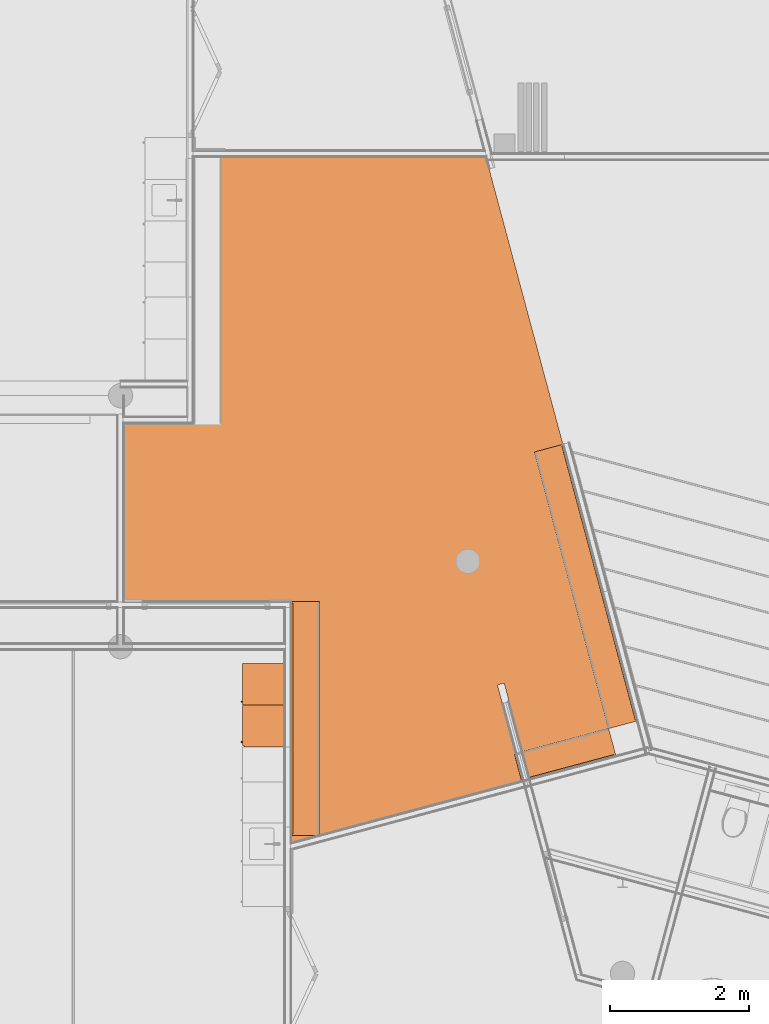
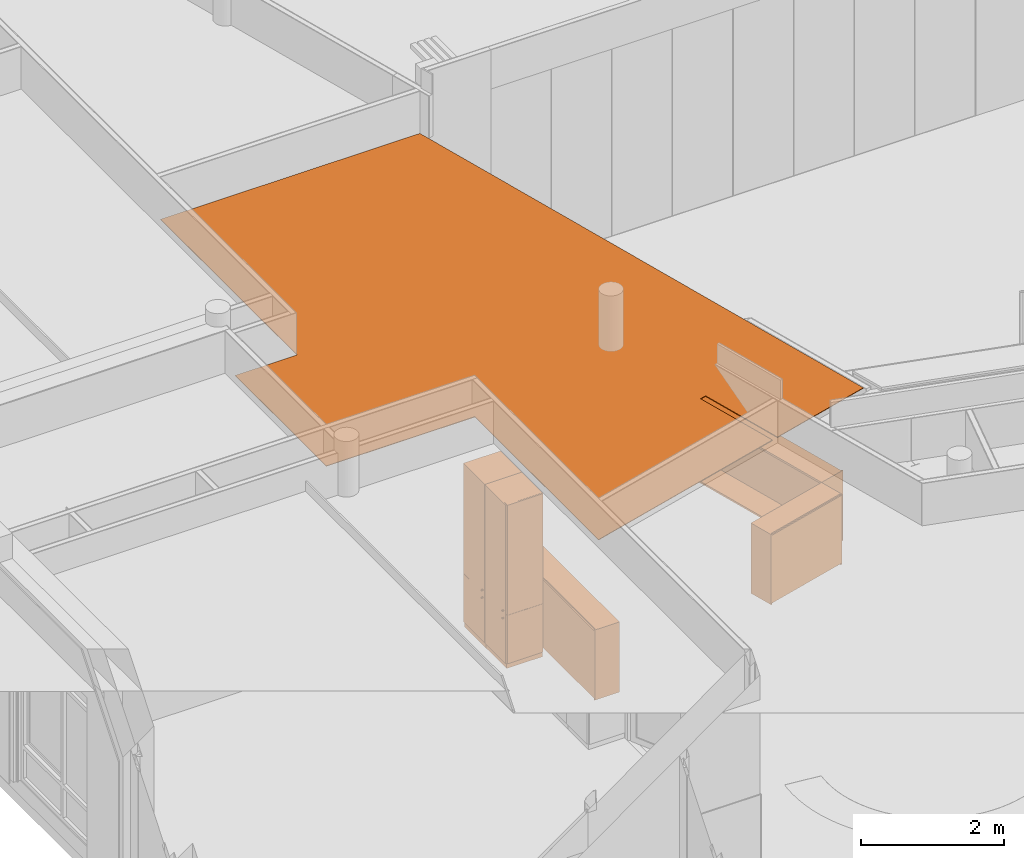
# One storey, part 125 of 167: 6 proxies.
"""IFC2X3 building model written with IfcOpenShell, lengths in millimetres."""

import ifcopenshell
import ifcopenshell.guid

model = None  # the IFC model being written
_history = None  # IfcOwnerHistory: only IFC2X3 demands one
_inside = {}  # id of a spatial element -> (the spatial element, [elements in it])
_under = {}  # id of a project, library or spatial element -> (it, [spatial elements below it])
_declared = {}  # id of a project -> (the project, [libraries it declares])
_typed = {}  # id of a type object -> (the type object, [elements of that type])
_made_of = {}  # id of a material, layer set ... -> (it, [elements and type objects made of it])


def new_model(schema):
    """Start an empty IFC model of exactly this schema.

    Asked for "IFC4X3", IfcOpenShell would pick the latest addendum, in which some entities
    have other attributes; the version numbers below select the first issue.
    IFC2X3 requires an IfcOwnerHistory on every rooted entity: one is made here for all.
    """
    global model, _history
    if schema == "IFC4X3":
        model = ifcopenshell.file(schema_version=(4, 3, 0, 0))
    else:
        model = ifcopenshell.file(schema=schema)
    _inside.clear()
    _under.clear()
    _declared.clear()
    _typed.clear()
    _made_of.clear()
    _history = None
    if model.schema == "IFC2X3":
        org = make("IfcOrganization", Name="unknown")
        user = make(
            "IfcPersonAndOrganization",
            ThePerson=make("IfcPerson", FamilyName="unknown"),
            TheOrganization=org,
        )
        app = make(
            "IfcApplication",
            ApplicationDeveloper=org,
            Version="unknown",
            ApplicationFullName="unknown",
            ApplicationIdentifier="unknown",
        )
        _history = make(
            "IfcOwnerHistory",
            OwningUser=user,
            OwningApplication=app,
            ChangeAction="ADDED",
            CreationDate=0,
        )
    return model


def make(cls, **values):
    """One entity of the class cls with the attributes given. An attribute that is None is left unset."""
    return model.create_entity(
        cls, **{name: value for name, value in values.items() if value is not None}
    )


def entity(cls, *values):
    """Any entity or typed value of the class cls, its attributes in the order of the schema. None: left unset."""
    e = model.create_entity(cls)
    for i, value in enumerate(values):
        if value is not None:
            e[i] = value
    return e


def rooted(cls, **values):
    """An entity with a GlobalId (a new one), such as an element, a storey or a relation."""
    return make(cls, GlobalId=ifcopenshell.guid.new(), OwnerHistory=_history, **values)


def si_unit(unit_type, name, prefix=None):
    """IfcSIUnit, for example si_unit("LENGTHUNIT", "METRE", prefix="MILLI")."""
    return make("IfcSIUnit", UnitType=unit_type, Prefix=prefix, Name=name)


def converted_unit(unit_type, name, factor, base, dimensions=None, offset=None):
    """IfcConversionBasedUnit, such as the inch: factor (a typed value) times the base unit."""
    return make(
        "IfcConversionBasedUnit"
        if offset is None
        else "IfcConversionBasedUnitWithOffset",
        ConversionOffset=offset,
        Dimensions=None
        if dimensions is None
        else entity("IfcDimensionalExponents", *dimensions),
        UnitType=unit_type,
        Name=name,
        ConversionFactor=make(
            "IfcMeasureWithUnit", ValueComponent=factor, UnitComponent=base
        ),
    )


def derived_unit(unit_type, elements):
    """IfcDerivedUnit: a product of units, each with its exponent."""
    return make(
        "IfcDerivedUnit",
        Elements=[
            make("IfcDerivedUnitElement", Unit=unit, Exponent=power)
            for unit, power in elements
        ],
        UnitType=unit_type,
    )


def money_unit(currency):
    """IfcMonetaryUnit."""
    return make("IfcMonetaryUnit", Currency=currency)


def assignment(units):
    """IfcUnitAssignment: the units of a project."""
    return None if units is None else make("IfcUnitAssignment", Units=units)


def point(xyz):
    """IfcCartesianPoint."""
    return None if xyz is None else make("IfcCartesianPoint", Coordinates=xyz)


def direction(xyz):
    """IfcDirection."""
    return None if xyz is None else make("IfcDirection", DirectionRatios=xyz)


def frame(location, z_axis=None, x_axis=None):
    """IfcAxis2Placement3D, a coordinate frame: its origin and axes. An axis left out is left unset."""
    return make(
        "IfcAxis2Placement3D",
        Location=point(location),
        Axis=direction(z_axis),
        RefDirection=direction(x_axis),
    )


def origin_with_axes():
    """The frame at (0, 0, 0) with the z axis (0, 0, 1) and the x axis (1, 0, 0) written out."""
    return frame((0.0, 0.0, 0.0), z_axis=(0.0, 0.0, 1.0), x_axis=(1.0, 0.0, 0.0))


def place(relative_to, where):
    """IfcLocalPlacement: puts the frame where relative to a parent placement (None: the world)."""
    return make(
        "IfcLocalPlacement", PlacementRelTo=relative_to, RelativePlacement=where
    )


def context(
    kind, dimensions, precision=None, world=None, true_north=None, identifier=None
):
    """IfcGeometricRepresentationContext, for example the 3D "Model" context."""
    return make(
        "IfcGeometricRepresentationContext",
        ContextIdentifier=identifier,
        ContextType=kind,
        CoordinateSpaceDimension=dimensions,
        Precision=precision,
        WorldCoordinateSystem=world,
        TrueNorth=true_north,
    )


def subcontext(parent, identifier, kind, view, scale=None):
    """IfcGeometricRepresentationSubContext, for example "Body" below "Model"."""
    return make(
        "IfcGeometricRepresentationSubContext",
        ContextIdentifier=identifier,
        ContextType=kind,
        ParentContext=parent,
        TargetScale=scale,
        TargetView=view,
    )


def project(units=None, contexts=None):
    """IfcProject with its units and contexts."""
    return rooted(
        "IfcProject",
        Name="project",
        RepresentationContexts=contexts,
        UnitsInContext=assignment(units),
    )


def spatial(cls, under=None, at=None, **own):
    """A site, building, storey or space (cls), placed at a placement, below another one or the project."""
    s = rooted(cls, ObjectPlacement=at, **own)
    if under is not None:
        _under.setdefault(under.id(), (under, []))[1].append(s)
    return s


def faces_of(points, faces, orient=None, outer=None):
    """IfcFace entities. A face is a list of loops; a loop is a list of indices into points, from 0.

    orient and outer hold one flag for each loop. By default every Orientation is true, the
    first loop of a face is its IfcFaceOuterBound and the others are IfcFaceBound.
    """
    made = []
    for i, loops in enumerate(faces):
        bounds = []
        for j, loop in enumerate(loops):
            is_outer = j == 0 if outer is None else outer[i][j]
            bounds.append(
                make(
                    "IfcFaceOuterBound" if is_outer else "IfcFaceBound",
                    Bound=make("IfcPolyLoop", Polygon=[points[k] for k in loop]),
                    Orientation=True if orient is None else orient[i][j],
                )
            )
        made.append(make("IfcFace", Bounds=bounds))
    return made


def faceted_brep(points, faces, orient=None, outer=None, voids=None):
    """IfcFacetedBrep: a solid bounded by flat faces; with voids (closed shells), ...WithVoids."""
    shared = [point(p) for p in points]
    hull = make("IfcClosedShell", CfsFaces=faces_of(shared, faces, orient, outer))
    if voids is None:
        return make("IfcFacetedBrep", Outer=hull)
    return make(
        "IfcFacetedBrepWithVoids",
        Outer=hull,
        Voids=[
            make(cls, CfsFaces=faces_of(shared, fs, o, b)) for cls, fs, o, b in voids
        ],
    )


def shape(context_of_items, identifier, shape_type, items):
    """IfcShapeRepresentation: the items that make up one representation, for example the "Body"."""
    return make(
        "IfcShapeRepresentation",
        ContextOfItems=context_of_items,
        RepresentationIdentifier=identifier,
        RepresentationType=shape_type,
        Items=items,
    )


def material(Name=None, Category=None):
    """IfcMaterial."""
    return make("IfcMaterial", Name=Name, Category=Category)


def made_of(thing, what):
    """Note that an element or type object is made of a material, layer set ...; save() writes the relation."""
    if what is not None:
        _made_of.setdefault(what.id(), (what, []))[1].append(thing)
    return thing


def type_object(cls, material=None, **own):
    """A type object (cls), such as IfcWallType, which elements share."""
    return made_of(rooted(cls, **own), material)


def element(
    cls,
    number,
    at=None,
    inside=None,
    cuts=None,
    type_object=None,
    material=None,
    context=None,
    identifier="Body",
    shape_type=None,
    held_by="IfcProductDefinitionShape",
    body=None,
    shapes=None,
    **own,
):
    """One element of the class cls, such as IfcWall. Its Tag is "e" and its number.

    at: its placement. inside: the storey or other place that contains it. cuts: it is an
    opening in that element (IfcRelVoidsElement). A single representation is given by context,
    identifier, shape_type and body (its items); several are given by shapes. held_by: the class
    of the entity that holds the representations. save() writes the other relations.
    """
    e = rooted(cls, Tag="e%d" % number, ObjectPlacement=at, **own)
    if body is not None:
        shapes = [shape(context, identifier, shape_type, body)]
    if shapes is not None:
        e.Representation = make(held_by, Representations=shapes)
    if inside is not None:
        _inside.setdefault(inside.id(), (inside, []))[1].append(e)
    if cuts is not None:
        rooted(
            "IfcRelVoidsElement", RelatingBuildingElement=cuts, RelatedOpeningElement=e
        )
    if type_object is not None:
        _typed.setdefault(type_object.id(), (type_object, []))[1].append(e)
    return made_of(e, material)


def aggregate(whole, parts):
    """IfcRelAggregates: a whole, such as a stair, and the parts it consists of."""
    return rooted("IfcRelAggregates", RelatingObject=whole, RelatedObjects=parts)


def save(model, path):
    """Write the relations noted so far, then the file.

    IfcRelAggregates (storeys below a building ...), IfcRelContainedInSpatialStructure (elements
    in a storey), IfcRelDefinesByType, IfcRelAssociatesMaterial and IfcRelDeclares: one each for
    every whole, place, type object, material and project.
    """
    for whole, parts in _under.values():
        aggregate(whole, parts)
    for where, things in _inside.values():
        rooted(
            "IfcRelContainedInSpatialStructure",
            RelatedElements=things,
            RelatingStructure=where,
        )
    for kind, things in _typed.values():
        rooted("IfcRelDefinesByType", RelatedObjects=things, RelatingType=kind)
    for what, things in _made_of.values():
        rooted("IfcRelAssociatesMaterial", RelatedObjects=things, RelatingMaterial=what)
    for by, libraries in _declared.values():
        rooted("IfcRelDeclares", RelatingContext=by, RelatedDefinitions=libraries)
    model.write(path)


model = new_model("IFC2X3")

# Units and contexts
model_context = context("Model", 3, precision=0.01, world=origin_with_axes(), true_north=direction((0.0, 1.0)))
plan_context = context("Plan", 3, precision=0.01, world=origin_with_axes(), true_north=direction((0.0, 1.0)))
body_context = subcontext(model_context, "Body", "Model", "MODEL_VIEW")
ifc_project = project(units=[si_unit("LENGTHUNIT", "METRE", prefix="MILLI"), si_unit("AREAUNIT", "SQUARE_METRE"), si_unit("VOLUMEUNIT", "CUBIC_METRE"), converted_unit("PLANEANGLEUNIT", "DEGREE", entity("IfcPlaneAngleMeasure", 0.0174532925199), si_unit("PLANEANGLEUNIT", "RADIAN"), dimensions=[0, 0, 0, 0, 0, 0, 0]), si_unit("SOLIDANGLEUNIT", "STERADIAN"), money_unit("EUR"), converted_unit("TIMEUNIT", "Year", entity("IfcTimeMeasure", 31556926.0), si_unit("TIMEUNIT", "SECOND"), dimensions=[0, 0, 1, 0, 0, 0, 0]), si_unit("MASSUNIT", "GRAM", prefix="KILO"), si_unit("THERMODYNAMICTEMPERATUREUNIT", "DEGREE_CELSIUS"), si_unit("LUMINOUSINTENSITYUNIT", "LUMEN"), si_unit("ENERGYUNIT", "JOULE", prefix="MEGA"), derived_unit("THERMALCONDUCTANCEUNIT", [(si_unit("POWERUNIT", "WATT"), 1), (si_unit("LENGTHUNIT", "METRE"), -1), (si_unit("THERMODYNAMICTEMPERATUREUNIT", "KELVIN"), -1)]), derived_unit("SPECIFICHEATCAPACITYUNIT", [(si_unit("ENERGYUNIT", "JOULE"), 1), (si_unit("MASSUNIT", "GRAM", prefix="KILO"), -1), (si_unit("THERMODYNAMICTEMPERATUREUNIT", "KELVIN"), -1)]), derived_unit("MASSDENSITYUNIT", [(si_unit("MASSUNIT", "GRAM", prefix="KILO"), 1), (si_unit("VOLUMEUNIT", "CUBIC_METRE"), -1)])], contexts=[model_context, plan_context])

# Site, building, storey
site_placement = place(None, origin_with_axes())
site = spatial("IfcSite", under=ifc_project, at=site_placement, Name="Site", CompositionType="ELEMENT")
building_placement = place(site_placement, origin_with_axes())
building = spatial("IfcBuilding", under=site, at=building_placement, Name="Naam gebouw", CompositionType="ELEMENT")
storey_placement = place(building_placement, origin_with_axes())
storey = spatial("IfcBuildingStorey", under=building, at=storey_placement, Name="Begane grond", CompositionType="ELEMENT", Elevation=0.0)

# Proxies
ifc_material = material(Name="ALG - BINNENAFWERKING")
building_element_proxy_type_1 = type_object("IfcBuildingElementProxyType", Name="ALG - BINNENAFWERKING 10", PredefinedType="NOTDEFINED")
proxy_1_placement = place(storey_placement, frame((7250.0, 18649.9999984, 2800.0), z_axis=(0.0, 0.0, 1.0), x_axis=(1.0, 0.0, 0.0)))
element("IfcBuildingElementProxy", 1, at=proxy_1_placement, inside=storey, type_object=building_element_proxy_type_1, material=ifc_material, Name="23__Vloer-x", context=body_context, shape_type="Brep", body=[
    faceted_brep([(2400.00000971, -3463.63688463, 0.0), (5723.50175265, -2573.10727657, 0.0), (5723.50175265, -2573.10727657, 10.0), (2400.00000971, -3463.63688463, 10.0), (5451.84811297, -1172.91176068, 0.0), (5355.25553034, -1198.79366519, 0.0), (2400.00001041, 0.0, 0.0), (0.0, 0.0, 0.0), (0.0, 2550.00000158, 0.0), (999.999979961, 2550.00000158, 0.0), (999.999979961, 6371.54575875, 0.0), (5190.28632, 6371.54575875, 0.0), (5202.75821805, 6325.00000158, 0.0), (5203.41386484, 6325.00000158, 0.0), (6295.22684183, 2252.32583911, 0.0), (6294.10828004, 2252.02612138, 0.0), (7462.47499059, -2108.37780427, 0.0), (5820.30158189, -2547.99882692, 0.0), (5355.25553034, -1198.79366519, 10.0), (5451.84811297, -1172.91176068, 10.0), (5820.30158189, -2547.99882692, 10.0), (7462.47499059, -2108.37780427, 10.0), (6294.10828004, 2252.02612138, 10.0), (6295.22684183, 2252.32583911, 10.0), (5203.41386484, 6325.00000158, 10.0), (5202.75821805, 6325.00000158, 10.0), (5190.28632, 6371.54575875, 10.0), (999.999979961, 6371.54575875, 10.0), (999.999979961, 2550.00000158, 10.0), (0.0, 2550.00000158, 10.0), (0.0, 0.0, 10.0), (2400.00001041, 0.0, 10.0)], [[[0, 1, 2, 3]], [[4, 5, 1, 0, 6, 7, 8, 9, 10, 11, 12, 13, 14, 15, 16, 17]], [[5, 18, 2, 1]], [[2, 18, 19, 20, 21, 22, 23, 24, 25, 26, 27, 28, 29, 30, 31, 3]], [[6, 0, 3, 31]], [[19, 18, 5, 4]], [[31, 30, 7, 6]], [[30, 29, 8, 7]], [[29, 28, 9, 8]], [[28, 27, 10, 9]], [[27, 26, 11, 10]], [[11, 26, 25, 12]], [[12, 25, 24, 13]], [[14, 13, 24, 23]], [[15, 14, 23, 22]], [[15, 22, 21, 16]], [[21, 20, 17, 16]], [[4, 17, 20, 19]]]),
])
building_element_proxy_type_2 = type_object("IfcBuildingElementProxyType", Name="Kast hoog 1D 24", PredefinedType="NOTDEFINED")
proxy_2_placement = place(storey_placement, frame((8950.0, 17761.0, 0.0), z_axis=(0.0, 0.0, 1.0), x_axis=(0.0, -1.0, 0.0)))
element("IfcBuildingElementProxy", 2, at=proxy_2_placement, inside=storey, type_object=building_element_proxy_type_2, Name="__Object-x", context=body_context, shape_type="Brep", body=[
    faceted_brep([(20.0, 20.0, 910.0), (580.0, 20.0, 910.0), (580.0, 20.0, 930.0), (20.0, 20.0, 930.0), (20.0, 580.0, 910.0), (580.0, 580.0, 910.0), (580.0, 580.0, 930.0), (20.0, 580.0, 930.0)], [[[0, 1, 2, 3]], [[0, 4, 5, 1]], [[1, 5, 6, 2]], [[3, 2, 6, 7]], [[4, 0, 3, 7]], [[5, 4, 7, 6]]]),
    faceted_brep([(0.0, 20.0, 0.0), (600.0, 20.0, 0.0), (600.0, 20.0, 90.0), (0.0, 20.0, 90.0), (0.0, 600.0, 0.0), (600.0, 600.0, 0.0), (600.0, 600.0, 90.0), (0.0, 600.0, 90.0)], [[[0, 1, 2, 3]], [[0, 4, 5, 1]], [[1, 5, 6, 2]], [[3, 2, 6, 7]], [[4, 0, 3, 7]], [[5, 4, 7, 6]]]),
    faceted_brep([(0.0, 20.0, 2780.0), (20.0, 20.0, 2780.0), (20.0, 20.0, 2800.0), (0.0, 20.0, 2800.0), (0.0, 600.0, 2780.0), (20.0, 600.0, 2780.0), (580.0, 600.0, 2780.0), (600.0, 600.0, 2780.0), (600.0, 20.0, 2780.0), (580.0, 20.0, 2780.0), (580.0, 20.0, 2800.0), (600.0, 20.0, 2800.0), (600.0, 600.0, 2800.0), (580.0, 600.0, 2800.0), (20.0, 600.0, 2800.0), (0.0, 600.0, 2800.0)], [[[0, 1, 2, 3]], [[0, 4, 5, 6, 7, 8, 9, 1]], [[1, 9, 10, 2]], [[3, 2, 10, 11, 12, 13, 14, 15]], [[4, 0, 3, 15]], [[5, 4, 15, 14]], [[6, 5, 14, 13]], [[7, 6, 13, 12]], [[8, 7, 12, 11]], [[9, 8, 11, 10]]]),
    faceted_brep([(0.0, 20.0, 90.0), (20.0, 20.0, 90.0), (20.0, 20.0, 110.0), (0.0, 20.0, 110.0), (0.0, 600.0, 90.0), (20.0, 600.0, 90.0), (580.0, 600.0, 90.0), (600.0, 600.0, 90.0), (600.0, 20.0, 90.0), (580.0, 20.0, 90.0), (580.0, 20.0, 110.0), (600.0, 20.0, 110.0), (600.0, 600.0, 110.0), (580.0, 600.0, 110.0), (20.0, 600.0, 110.0), (0.0, 600.0, 110.0)], [[[0, 1, 2, 3]], [[0, 4, 5, 6, 7, 8, 9, 1]], [[1, 9, 10, 2]], [[3, 2, 10, 11, 12, 13, 14, 15]], [[4, 0, 3, 15]], [[5, 4, 15, 14]], [[6, 5, 14, 13]], [[7, 6, 13, 12]], [[8, 7, 12, 11]], [[9, 8, 11, 10]]]),
    faceted_brep([(0.0, 20.0, 110.0), (20.0, 20.0, 110.0), (20.0, 20.0, 2780.0), (0.0, 20.0, 2780.0), (0.0, 600.0, 110.0), (600.0, 600.0, 110.0), (600.0, 20.0, 110.0), (580.0, 20.0, 110.0), (580.0, 580.0, 110.0), (20.0, 580.0, 110.0), (20.0, 580.0, 2780.0), (580.0, 580.0, 2780.0), (580.0, 20.0, 2780.0), (600.0, 20.0, 2780.0), (600.0, 600.0, 2780.0), (0.0, 600.0, 2780.0)], [[[0, 1, 2, 3]], [[0, 4, 5, 6, 7, 8, 9, 1]], [[1, 9, 10, 2]], [[3, 2, 10, 11, 12, 13, 14, 15]], [[4, 0, 3, 15]], [[5, 4, 15, 14]], [[6, 5, 14, 13]], [[7, 6, 13, 12]], [[8, 7, 12, 11]], [[9, 8, 11, 10]]]),
    faceted_brep([(580.0, 20.0, 353.333333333), (580.0, 580.0, 353.333333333), (580.0, 580.0, 373.333333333), (580.0, 20.0, 373.333333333), (20.0, 20.0, 353.333333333), (20.0, 580.0, 353.333333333), (20.0, 580.0, 373.333333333), (20.0, 20.0, 373.333333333)], [[[0, 1, 2, 3]], [[0, 4, 5, 1]], [[1, 5, 6, 2]], [[3, 2, 6, 7]], [[4, 0, 3, 7]], [[5, 4, 7, 6]]]),
    faceted_brep([(580.0, 20.0, 636.666666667), (580.0, 580.0, 636.666666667), (580.0, 580.0, 656.666666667), (580.0, 20.0, 656.666666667), (20.0, 20.0, 636.666666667), (20.0, 580.0, 636.666666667), (20.0, 580.0, 656.666666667), (20.0, 20.0, 656.666666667)], [[[0, 1, 2, 3]], [[0, 4, 5, 1]], [[1, 5, 6, 2]], [[3, 2, 6, 7]], [[4, 0, 3, 7]], [[5, 4, 7, 6]]]),
    faceted_brep([(1.5, 20.0, 91.5), (598.5, 20.0, 91.5), (598.5, 0.0, 91.5), (1.5, 0.0, 91.5), (1.5, 20.0, 918.5), (598.5, 20.0, 918.5), (598.5, 0.0, 918.5), (1.5, 0.0, 918.5)], [[[0, 1, 2, 3]], [[0, 4, 5, 1]], [[1, 5, 6, 2]], [[3, 2, 6, 7]], [[4, 0, 3, 7]], [[5, 4, 7, 6]]]),
    faceted_brep([(560.091109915, 0.0, 838.394171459), (558.892304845, 0.0, 835.5), (556.985281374, 0.0, 833.014718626), (554.5, 0.0, 831.107695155), (551.605828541, 0.0, 829.908890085), (548.5, 0.0, 829.5), (545.394171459, 0.0, 829.908890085), (542.5, 0.0, 831.107695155), (540.014718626, 0.0, 833.014718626), (538.107695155, 0.0, 835.5), (536.908890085, 0.0, 838.394171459), (536.5, 0.0, 841.5), (536.908890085, 0.0, 844.605828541), (538.107695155, 0.0, 847.5), (540.014718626, 0.0, 849.985281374), (542.5, 0.0, 851.892304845), (545.394171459, 0.0, 853.091109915), (548.5, 0.0, 853.5), (551.605828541, 0.0, 853.091109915), (554.5, 0.0, 851.892304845), (556.985281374, 0.0, 849.985281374), (558.892304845, 0.0, 847.5), (560.091109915, 0.0, 844.605828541), (560.5, 0.0, 841.5), (560.091109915, -25.0, 838.394171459), (558.892304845, -25.0, 835.5), (556.985281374, -25.0, 833.014718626), (554.5, -25.0, 831.107695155), (551.605828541, -25.0, 829.908890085), (548.5, -25.0, 829.5), (545.394171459, -25.0, 829.908890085), (542.5, -25.0, 831.107695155), (540.014718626, -25.0, 833.014718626), (538.107695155, -25.0, 835.5), (536.908890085, -25.0, 838.394171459), (536.5, -25.0, 841.5), (536.908890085, -25.0, 844.605828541), (538.107695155, -25.0, 847.5), (540.014718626, -25.0, 849.985281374), (542.5, -25.0, 851.892304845), (545.394171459, -25.0, 853.091109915), (548.5, -25.0, 853.5), (551.605828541, -25.0, 853.091109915), (554.5, -25.0, 851.892304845), (556.985281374, -25.0, 849.985281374), (558.892304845, -25.0, 847.5), (560.091109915, -25.0, 844.605828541), (560.5, -25.0, 841.5)], [[[0, 1, 2, 3, 4, 5, 6, 7, 8, 9, 10, 11, 12, 13, 14, 15, 16, 17, 18, 19, 20, 21, 22, 23]], [[1, 0, 24, 25]], [[2, 1, 25, 26]], [[3, 2, 26, 27]], [[4, 3, 27, 28]], [[5, 4, 28, 29]], [[6, 5, 29, 30]], [[7, 6, 30, 31]], [[8, 7, 31, 32]], [[9, 8, 32, 33]], [[10, 9, 33, 34]], [[11, 10, 34, 35]], [[12, 11, 35, 36]], [[13, 12, 36, 37]], [[14, 13, 37, 38]], [[15, 14, 38, 39]], [[16, 15, 39, 40]], [[17, 16, 40, 41]], [[18, 17, 41, 42]], [[19, 18, 42, 43]], [[20, 19, 43, 44]], [[21, 20, 44, 45]], [[22, 21, 45, 46]], [[23, 22, 46, 47]], [[0, 23, 47, 24]], [[24, 47, 46, 45, 44, 43, 42, 41, 40, 39, 38, 37, 36, 35, 34, 33, 32, 31, 30, 29, 28, 27, 26, 25]]]),
    faceted_brep([(1.5, 20.0, 921.5), (598.5, 20.0, 921.5), (598.5, 0.0, 921.5), (1.5, 0.0, 921.5), (1.5, 20.0, 2798.5), (598.5, 20.0, 2798.5), (598.5, 0.0, 2798.5), (1.5, 0.0, 2798.5)], [[[0, 1, 2, 3]], [[0, 4, 5, 1]], [[1, 5, 6, 2]], [[3, 2, 6, 7]], [[4, 0, 3, 7]], [[5, 4, 7, 6]]]),
    faceted_brep([(560.091109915, 0.0, 968.394171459), (558.892304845, 0.0, 965.5), (556.985281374, 0.0, 963.014718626), (554.5, 0.0, 961.107695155), (551.605828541, 0.0, 959.908890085), (548.5, 0.0, 959.5), (545.394171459, 0.0, 959.908890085), (542.5, 0.0, 961.107695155), (540.014718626, 0.0, 963.014718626), (538.107695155, 0.0, 965.5), (536.908890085, 0.0, 968.394171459), (536.5, 0.0, 971.5), (536.908890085, 0.0, 974.605828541), (538.107695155, 0.0, 977.5), (540.014718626, 0.0, 979.985281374), (542.5, 0.0, 981.892304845), (545.394171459, 0.0, 983.091109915), (548.5, 0.0, 983.5), (551.605828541, 0.0, 983.091109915), (554.5, 0.0, 981.892304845), (556.985281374, 0.0, 979.985281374), (558.892304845, 0.0, 977.5), (560.091109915, 0.0, 974.605828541), (560.5, 0.0, 971.5), (560.091109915, -25.0, 968.394171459), (558.892304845, -25.0, 965.5), (556.985281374, -25.0, 963.014718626), (554.5, -25.0, 961.107695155), (551.605828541, -25.0, 959.908890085), (548.5, -25.0, 959.5), (545.394171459, -25.0, 959.908890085), (542.5, -25.0, 961.107695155), (540.014718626, -25.0, 963.014718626), (538.107695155, -25.0, 965.5), (536.908890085, -25.0, 968.394171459), (536.5, -25.0, 971.5), (536.908890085, -25.0, 974.605828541), (538.107695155, -25.0, 977.5), (540.014718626, -25.0, 979.985281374), (542.5, -25.0, 981.892304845), (545.394171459, -25.0, 983.091109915), (548.5, -25.0, 983.5), (551.605828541, -25.0, 983.091109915), (554.5, -25.0, 981.892304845), (556.985281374, -25.0, 979.985281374), (558.892304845, -25.0, 977.5), (560.091109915, -25.0, 974.605828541), (560.5, -25.0, 971.5)], [[[0, 1, 2, 3, 4, 5, 6, 7, 8, 9, 10, 11, 12, 13, 14, 15, 16, 17, 18, 19, 20, 21, 22, 23]], [[1, 0, 24, 25]], [[2, 1, 25, 26]], [[3, 2, 26, 27]], [[4, 3, 27, 28]], [[5, 4, 28, 29]], [[6, 5, 29, 30]], [[7, 6, 30, 31]], [[8, 7, 31, 32]], [[9, 8, 32, 33]], [[10, 9, 33, 34]], [[11, 10, 34, 35]], [[12, 11, 35, 36]], [[13, 12, 36, 37]], [[14, 13, 37, 38]], [[15, 14, 38, 39]], [[16, 15, 39, 40]], [[17, 16, 40, 41]], [[18, 17, 41, 42]], [[19, 18, 42, 43]], [[20, 19, 43, 44]], [[21, 20, 44, 45]], [[22, 21, 45, 46]], [[23, 22, 46, 47]], [[0, 23, 47, 24]], [[24, 47, 46, 45, 44, 43, 42, 41, 40, 39, 38, 37, 36, 35, 34, 33, 32, 31, 30, 29, 28, 27, 26, 25]]]),
])
proxy_3_placement = place(storey_placement, frame((8950.0, 17161.0, 0.0), z_axis=(0.0, 0.0, 1.0), x_axis=(0.0, -1.0, 0.0)))
element("IfcBuildingElementProxy", 3, at=proxy_3_placement, inside=storey, type_object=building_element_proxy_type_2, Name="__Object-x", context=body_context, shape_type="Brep", body=[
    faceted_brep([(20.0, 20.0, 910.0), (560.0, 20.0, 910.0), (560.0, 20.0, 930.0), (20.0, 20.0, 930.0), (20.0, 580.0, 910.0), (560.0, 580.0, 910.0), (560.0, 580.0, 930.0), (20.0, 580.0, 930.0)], [[[0, 1, 2, 3]], [[0, 4, 5, 1]], [[1, 5, 6, 2]], [[3, 2, 6, 7]], [[4, 0, 3, 7]], [[5, 4, 7, 6]]]),
    faceted_brep([(0.0, 20.0, 0.0), (580.0, 20.0, 0.0), (580.0, 20.0, 90.0), (0.0, 20.0, 90.0), (0.0, 600.0, 0.0), (580.0, 600.0, 0.0), (580.0, 600.0, 90.0), (0.0, 600.0, 90.0)], [[[0, 1, 2, 3]], [[0, 4, 5, 1]], [[1, 5, 6, 2]], [[3, 2, 6, 7]], [[4, 0, 3, 7]], [[5, 4, 7, 6]]]),
    faceted_brep([(0.0, 20.0, 2780.0), (20.0, 20.0, 2780.0), (20.0, 20.0, 2800.0), (0.0, 20.0, 2800.0), (0.0, 600.0, 2780.0), (20.0, 600.0, 2780.0), (560.0, 600.0, 2780.0), (580.0, 600.0, 2780.0), (580.0, 20.0, 2780.0), (560.0, 20.0, 2780.0), (560.0, 20.0, 2800.0), (580.0, 20.0, 2800.0), (580.0, 600.0, 2800.0), (560.0, 600.0, 2800.0), (20.0, 600.0, 2800.0), (0.0, 600.0, 2800.0)], [[[0, 1, 2, 3]], [[0, 4, 5, 6, 7, 8, 9, 1]], [[1, 9, 10, 2]], [[3, 2, 10, 11, 12, 13, 14, 15]], [[4, 0, 3, 15]], [[5, 4, 15, 14]], [[6, 5, 14, 13]], [[7, 6, 13, 12]], [[8, 7, 12, 11]], [[9, 8, 11, 10]]]),
    faceted_brep([(0.0, 20.0, 90.0), (20.0, 20.0, 90.0), (20.0, 20.0, 110.0), (0.0, 20.0, 110.0), (0.0, 600.0, 90.0), (20.0, 600.0, 90.0), (560.0, 600.0, 90.0), (580.0, 600.0, 90.0), (580.0, 20.0, 90.0), (560.0, 20.0, 90.0), (560.0, 20.0, 110.0), (580.0, 20.0, 110.0), (580.0, 600.0, 110.0), (560.0, 600.0, 110.0), (20.0, 600.0, 110.0), (0.0, 600.0, 110.0)], [[[0, 1, 2, 3]], [[0, 4, 5, 6, 7, 8, 9, 1]], [[1, 9, 10, 2]], [[3, 2, 10, 11, 12, 13, 14, 15]], [[4, 0, 3, 15]], [[5, 4, 15, 14]], [[6, 5, 14, 13]], [[7, 6, 13, 12]], [[8, 7, 12, 11]], [[9, 8, 11, 10]]]),
    faceted_brep([(0.0, 20.0, 110.0), (20.0, 20.0, 110.0), (20.0, 20.0, 2780.0), (0.0, 20.0, 2780.0), (0.0, 600.0, 110.0), (580.0, 600.0, 110.0), (580.0, 20.0, 110.0), (560.0, 20.0, 110.0), (560.0, 580.0, 110.0), (20.0, 580.0, 110.0), (20.0, 580.0, 2780.0), (560.0, 580.0, 2780.0), (560.0, 20.0, 2780.0), (580.0, 20.0, 2780.0), (580.0, 600.0, 2780.0), (0.0, 600.0, 2780.0)], [[[0, 1, 2, 3]], [[0, 4, 5, 6, 7, 8, 9, 1]], [[1, 9, 10, 2]], [[3, 2, 10, 11, 12, 13, 14, 15]], [[4, 0, 3, 15]], [[5, 4, 15, 14]], [[6, 5, 14, 13]], [[7, 6, 13, 12]], [[8, 7, 12, 11]], [[9, 8, 11, 10]]]),
    faceted_brep([(560.0, 20.0, 353.333333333), (560.0, 580.0, 353.333333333), (560.0, 580.0, 373.333333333), (560.0, 20.0, 373.333333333), (20.0, 20.0, 353.333333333), (20.0, 580.0, 353.333333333), (20.0, 580.0, 373.333333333), (20.0, 20.0, 373.333333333)], [[[0, 1, 2, 3]], [[0, 4, 5, 1]], [[1, 5, 6, 2]], [[3, 2, 6, 7]], [[4, 0, 3, 7]], [[5, 4, 7, 6]]]),
    faceted_brep([(560.0, 20.0, 636.666666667), (560.0, 580.0, 636.666666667), (560.0, 580.0, 656.666666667), (560.0, 20.0, 656.666666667), (20.0, 20.0, 636.666666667), (20.0, 580.0, 636.666666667), (20.0, 580.0, 656.666666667), (20.0, 20.0, 656.666666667)], [[[0, 1, 2, 3]], [[0, 4, 5, 1]], [[1, 5, 6, 2]], [[3, 2, 6, 7]], [[4, 0, 3, 7]], [[5, 4, 7, 6]]]),
    faceted_brep([(1.5, 20.0, 91.5), (578.5, 20.0, 91.5), (578.5, 0.0, 91.5), (1.5, 0.0, 91.5), (1.5, 20.0, 918.5), (578.5, 20.0, 918.5), (578.5, 0.0, 918.5), (1.5, 0.0, 918.5)], [[[0, 1, 2, 3]], [[0, 4, 5, 1]], [[1, 5, 6, 2]], [[3, 2, 6, 7]], [[4, 0, 3, 7]], [[5, 4, 7, 6]]]),
    faceted_brep([(540.091109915, 0.0, 838.394171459), (538.892304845, 0.0, 835.5), (536.985281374, 0.0, 833.014718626), (534.5, 0.0, 831.107695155), (531.605828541, 0.0, 829.908890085), (528.5, 0.0, 829.5), (525.394171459, 0.0, 829.908890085), (522.5, 0.0, 831.107695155), (520.014718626, 0.0, 833.014718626), (518.107695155, 0.0, 835.5), (516.908890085, 0.0, 838.394171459), (516.5, 0.0, 841.5), (516.908890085, 0.0, 844.605828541), (518.107695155, 0.0, 847.5), (520.014718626, 0.0, 849.985281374), (522.5, 0.0, 851.892304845), (525.394171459, 0.0, 853.091109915), (528.5, 0.0, 853.5), (531.605828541, 0.0, 853.091109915), (534.5, 0.0, 851.892304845), (536.985281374, 0.0, 849.985281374), (538.892304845, 0.0, 847.5), (540.091109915, 0.0, 844.605828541), (540.5, 0.0, 841.5), (540.091109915, -25.0, 838.394171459), (538.892304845, -25.0, 835.5), (536.985281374, -25.0, 833.014718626), (534.5, -25.0, 831.107695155), (531.605828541, -25.0, 829.908890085), (528.5, -25.0, 829.5), (525.394171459, -25.0, 829.908890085), (522.5, -25.0, 831.107695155), (520.014718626, -25.0, 833.014718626), (518.107695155, -25.0, 835.5), (516.908890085, -25.0, 838.394171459), (516.5, -25.0, 841.5), (516.908890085, -25.0, 844.605828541), (518.107695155, -25.0, 847.5), (520.014718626, -25.0, 849.985281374), (522.5, -25.0, 851.892304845), (525.394171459, -25.0, 853.091109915), (528.5, -25.0, 853.5), (531.605828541, -25.0, 853.091109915), (534.5, -25.0, 851.892304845), (536.985281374, -25.0, 849.985281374), (538.892304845, -25.0, 847.5), (540.091109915, -25.0, 844.605828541), (540.5, -25.0, 841.5)], [[[0, 1, 2, 3, 4, 5, 6, 7, 8, 9, 10, 11, 12, 13, 14, 15, 16, 17, 18, 19, 20, 21, 22, 23]], [[1, 0, 24, 25]], [[2, 1, 25, 26]], [[3, 2, 26, 27]], [[4, 3, 27, 28]], [[5, 4, 28, 29]], [[6, 5, 29, 30]], [[7, 6, 30, 31]], [[8, 7, 31, 32]], [[9, 8, 32, 33]], [[10, 9, 33, 34]], [[11, 10, 34, 35]], [[12, 11, 35, 36]], [[13, 12, 36, 37]], [[14, 13, 37, 38]], [[15, 14, 38, 39]], [[16, 15, 39, 40]], [[17, 16, 40, 41]], [[18, 17, 41, 42]], [[19, 18, 42, 43]], [[20, 19, 43, 44]], [[21, 20, 44, 45]], [[22, 21, 45, 46]], [[23, 22, 46, 47]], [[0, 23, 47, 24]], [[24, 47, 46, 45, 44, 43, 42, 41, 40, 39, 38, 37, 36, 35, 34, 33, 32, 31, 30, 29, 28, 27, 26, 25]]]),
    faceted_brep([(1.5, 20.0, 921.5), (578.5, 20.0, 921.5), (578.5, 0.0, 921.5), (1.5, 0.0, 921.5), (1.5, 20.0, 2798.5), (578.5, 20.0, 2798.5), (578.5, 0.0, 2798.5), (1.5, 0.0, 2798.5)], [[[0, 1, 2, 3]], [[0, 4, 5, 1]], [[1, 5, 6, 2]], [[3, 2, 6, 7]], [[4, 0, 3, 7]], [[5, 4, 7, 6]]]),
    faceted_brep([(540.091109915, 0.0, 968.394171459), (538.892304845, 0.0, 965.5), (536.985281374, 0.0, 963.014718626), (534.5, 0.0, 961.107695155), (531.605828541, 0.0, 959.908890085), (528.5, 0.0, 959.5), (525.394171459, 0.0, 959.908890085), (522.5, 0.0, 961.107695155), (520.014718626, 0.0, 963.014718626), (518.107695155, 0.0, 965.5), (516.908890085, 0.0, 968.394171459), (516.5, 0.0, 971.5), (516.908890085, 0.0, 974.605828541), (518.107695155, 0.0, 977.5), (520.014718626, 0.0, 979.985281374), (522.5, 0.0, 981.892304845), (525.394171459, 0.0, 983.091109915), (528.5, 0.0, 983.5), (531.605828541, 0.0, 983.091109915), (534.5, 0.0, 981.892304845), (536.985281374, 0.0, 979.985281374), (538.892304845, 0.0, 977.5), (540.091109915, 0.0, 974.605828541), (540.5, 0.0, 971.5), (540.091109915, -25.0, 968.394171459), (538.892304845, -25.0, 965.5), (536.985281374, -25.0, 963.014718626), (534.5, -25.0, 961.107695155), (531.605828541, -25.0, 959.908890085), (528.5, -25.0, 959.5), (525.394171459, -25.0, 959.908890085), (522.5, -25.0, 961.107695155), (520.014718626, -25.0, 963.014718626), (518.107695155, -25.0, 965.5), (516.908890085, -25.0, 968.394171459), (516.5, -25.0, 971.5), (516.908890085, -25.0, 974.605828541), (518.107695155, -25.0, 977.5), (520.014718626, -25.0, 979.985281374), (522.5, -25.0, 981.892304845), (525.394171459, -25.0, 983.091109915), (528.5, -25.0, 983.5), (531.605828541, -25.0, 983.091109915), (534.5, -25.0, 981.892304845), (536.985281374, -25.0, 979.985281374), (538.892304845, -25.0, 977.5), (540.091109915, -25.0, 974.605828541), (540.5, -25.0, 971.5)], [[[0, 1, 2, 3, 4, 5, 6, 7, 8, 9, 10, 11, 12, 13, 14, 15, 16, 17, 18, 19, 20, 21, 22, 23]], [[1, 0, 24, 25]], [[2, 1, 25, 26]], [[3, 2, 26, 27]], [[4, 3, 27, 28]], [[5, 4, 28, 29]], [[6, 5, 29, 30]], [[7, 6, 30, 31]], [[8, 7, 31, 32]], [[9, 8, 32, 33]], [[10, 9, 33, 34]], [[11, 10, 34, 35]], [[12, 11, 35, 36]], [[13, 12, 36, 37]], [[14, 13, 37, 38]], [[15, 14, 38, 39]], [[16, 15, 39, 40]], [[17, 16, 40, 41]], [[18, 17, 41, 42]], [[19, 18, 42, 43]], [[20, 19, 43, 44]], [[21, 20, 44, 45]], [[22, 21, 45, 46]], [[23, 22, 46, 47]], [[0, 23, 47, 24]], [[24, 47, 46, 45, 44, 43, 42, 41, 40, 39, 38, 37, 36, 35, 34, 33, 32, 31, 30, 29, 28, 27, 26, 25]]]),
    faceted_brep([(580.0, 21.5, 91.5), (580.0, 598.5, 91.5), (600.0, 598.5, 91.5), (600.0, 21.5, 91.5), (580.0, 21.5, 918.5), (580.0, 598.5, 918.5), (600.0, 598.5, 918.5), (600.0, 21.5, 918.5)], [[[0, 1, 2, 3]], [[0, 4, 5, 1]], [[1, 5, 6, 2]], [[3, 2, 6, 7]], [[4, 0, 3, 7]], [[5, 4, 7, 6]]]),
    faceted_brep([(580.0, 21.5, 921.5), (580.0, 598.5, 921.5), (600.0, 598.5, 921.5), (600.0, 21.5, 921.5), (580.0, 21.5, 2798.5), (580.0, 598.5, 2798.5), (600.0, 598.5, 2798.5), (600.0, 21.5, 2798.5)], [[[0, 1, 2, 3]], [[0, 4, 5, 1]], [[1, 5, 6, 2]], [[3, 2, 6, 7]], [[4, 0, 3, 7]], [[5, 4, 7, 6]]]),
])
building_element_proxy_type_3 = type_object("IfcBuildingElementProxyType", Name="Boekenplank 01 24", PredefinedType="NOTDEFINED")
proxy_4_placement = place(storey_placement, frame((10050.0, 18650.0, 0.0), z_axis=(0.0, 0.0, 1.0), x_axis=(0.0, 1.0, 0.0)))
element("IfcBuildingElementProxy", 4, at=proxy_4_placement, inside=storey, type_object=building_element_proxy_type_3, Name="__Object-x", context=body_context, shape_type="Brep", body=[
    faceted_brep([(-3336.45721185, 400.0, 20.0), (-3336.45721185, 380.0, 20.0), (-3336.45721185, 380.0, 1180.0), (-3336.45721185, 400.0, 1180.0), (-20.0, 400.0, 20.0), (-20.0, 380.0, 20.0), (-20.0, 380.0, 1180.0), (-20.0, 400.0, 1180.0)], [[[0, 1, 2, 3]], [[0, 4, 5, 1]], [[1, 5, 6, 2]], [[3, 2, 6, 7]], [[4, 0, 3, 7]], [[5, 4, 7, 6]]]),
    faceted_brep([(-3336.45721185, 380.0, 0.0), (-3336.45721185, 0.0, 0.0), (-3336.45721185, 0.0, 30.0), (-3336.45721185, 380.0, 30.0), (-20.0, 380.0, 0.0), (-20.0, 0.0, 0.0), (-20.0, 0.0, 30.0), (-20.0, 380.0, 30.0)], [[[0, 1, 2, 3]], [[0, 4, 5, 1]], [[1, 5, 6, 2]], [[3, 2, 6, 7]], [[4, 0, 3, 7]], [[5, 4, 7, 6]]]),
    faceted_brep([(-3336.45721185, 380.0, 1170.0), (-3336.45721185, 0.0, 1170.0), (-3336.45721185, 0.0, 1200.0), (-3336.45721185, 380.0, 1200.0), (-20.0, 380.0, 1170.0), (-20.0, 0.0, 1170.0), (-20.0, 0.0, 1200.0), (-20.0, 380.0, 1200.0)], [[[0, 1, 2, 3]], [[0, 4, 5, 1]], [[1, 5, 6, 2]], [[3, 2, 6, 7]], [[4, 0, 3, 7]], [[5, 4, 7, 6]]]),
    faceted_brep([(-20.0, 0.0, 0.0), (0.0, 0.0, 0.0), (0.0, 0.0, 1200.0), (-20.0, 0.0, 1200.0), (-20.0, 400.0, 0.0), (0.0, 400.0, 0.0), (0.0, 400.0, 1200.0), (-20.0, 400.0, 1200.0)], [[[0, 1, 2, 3]], [[0, 4, 5, 1]], [[1, 5, 6, 2]], [[3, 2, 6, 7]], [[4, 0, 3, 7]], [[5, 4, 7, 6]]]),
    faceted_brep([(-3336.45721185, 400.0, 0.0), (-3356.45721185, 400.0, 0.0), (-3356.45721185, 400.0, 1200.0), (-3336.45721185, 400.0, 1200.0), (-3336.45721185, 0.0, 0.0), (-3356.45721185, 0.0, 0.0), (-3356.45721185, 0.0, 1200.0), (-3336.45721185, 0.0, 1200.0)], [[[0, 1, 2, 3]], [[0, 4, 5, 1]], [[1, 5, 6, 2]], [[3, 2, 6, 7]], [[4, 0, 3, 7]], [[5, 4, 7, 6]]]),
])
proxy_5_placement = place(storey_placement, frame((14200.6481993, 16825.2826889, 0.0), z_axis=(0.0, 0.0, 1.0), x_axis=(0.258819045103, -0.965925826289, 0.0)))
element("IfcBuildingElementProxy", 5, at=proxy_5_placement, inside=storey, type_object=building_element_proxy_type_3, Name="__Object-x", context=body_context, shape_type="Brep", body=[
    faceted_brep([(-4087.75680204, 420.969977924, 20.0), (-4087.75680204, 400.969977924, 20.0), (-4087.75680204, 400.969977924, 1180.0), (-4087.75680204, 420.969977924, 1180.0), (-20.0, 420.969977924, 20.0), (-20.0, 400.969977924, 20.0), (-20.0, 400.969977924, 1180.0), (-20.0, 420.969977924, 1180.0)], [[[0, 1, 2, 3]], [[0, 4, 5, 1]], [[1, 5, 6, 2]], [[3, 2, 6, 7]], [[4, 0, 3, 7]], [[5, 4, 7, 6]]]),
    faceted_brep([(-4087.75680204, 400.969977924, 0.0), (-4087.75680204, 0.0, 0.0), (-4087.75680204, 0.0, 30.0), (-4087.75680204, 400.969977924, 30.0), (-20.0, 400.969977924, 0.0), (-20.0, 0.0, 0.0), (-20.0, 0.0, 30.0), (-20.0, 400.969977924, 30.0)], [[[0, 1, 2, 3]], [[0, 4, 5, 1]], [[1, 5, 6, 2]], [[3, 2, 6, 7]], [[4, 0, 3, 7]], [[5, 4, 7, 6]]]),
    faceted_brep([(-4087.75680204, 400.969977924, 1170.0), (-4087.75680204, 0.0, 1170.0), (-4087.75680204, 0.0, 1200.0), (-4087.75680204, 400.969977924, 1200.0), (-20.0, 400.969977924, 1170.0), (-20.0, 0.0, 1170.0), (-20.0, 0.0, 1200.0), (-20.0, 400.969977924, 1200.0)], [[[0, 1, 2, 3]], [[0, 4, 5, 1]], [[1, 5, 6, 2]], [[3, 2, 6, 7]], [[4, 0, 3, 7]], [[5, 4, 7, 6]]]),
    faceted_brep([(-20.0, 0.0, 0.0), (0.0, 0.0, 0.0), (0.0, 0.0, 1200.0), (-20.0, 0.0, 1200.0), (-20.0, 420.969977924, 0.0), (0.0, 420.969977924, 0.0), (0.0, 420.969977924, 1200.0), (-20.0, 420.969977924, 1200.0)], [[[0, 1, 2, 3]], [[0, 4, 5, 1]], [[1, 5, 6, 2]], [[3, 2, 6, 7]], [[4, 0, 3, 7]], [[5, 4, 7, 6]]]),
    faceted_brep([(-4087.75680204, 420.969977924, 0.0), (-4107.75680204, 420.969977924, 0.0), (-4107.75680204, 420.969977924, 1200.0), (-4087.75680204, 420.969977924, 1200.0), (-4087.75680204, 0.0, 0.0), (-4107.75680204, 0.0, 0.0), (-4107.75680204, 0.0, 1200.0), (-4087.75680204, 0.0, 1200.0)], [[[0, 1, 2, 3]], [[0, 4, 5, 1]], [[1, 5, 6, 2]], [[3, 2, 6, 7]], [[4, 0, 3, 7]], [[5, 4, 7, 6]]]),
])
proxy_6_placement = place(storey_placement, frame((12848.3520425, 16462.9360257, 0.0), z_axis=(0.0, 0.0, 1.0), x_axis=(-0.965925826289, -0.258819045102, 0.0)))
element("IfcBuildingElementProxy", 6, at=proxy_6_placement, inside=storey, type_object=building_element_proxy_type_3, Name="__Object-x", context=body_context, shape_type="Brep", body=[
    faceted_brep([(-1380.0, 400.0, 20.0), (-1380.0, 380.0, 20.0), (-1380.0, 380.0, 1180.0), (-1380.0, 400.0, 1180.0), (-20.0, 400.0, 20.0), (-20.0, 380.0, 20.0), (-20.0, 380.0, 1180.0), (-20.0, 400.0, 1180.0)], [[[0, 1, 2, 3]], [[0, 4, 5, 1]], [[1, 5, 6, 2]], [[3, 2, 6, 7]], [[4, 0, 3, 7]], [[5, 4, 7, 6]]]),
    faceted_brep([(-1380.0, 380.0, 0.0), (-1380.0, 0.0, 0.0), (-1380.0, 0.0, 30.0), (-1380.0, 380.0, 30.0), (-20.0, 380.0, 0.0), (-20.0, 0.0, 0.0), (-20.0, 0.0, 30.0), (-20.0, 380.0, 30.0)], [[[0, 1, 2, 3]], [[0, 4, 5, 1]], [[1, 5, 6, 2]], [[3, 2, 6, 7]], [[4, 0, 3, 7]], [[5, 4, 7, 6]]]),
    faceted_brep([(-1380.0, 380.0, 1170.0), (-1380.0, 0.0, 1170.0), (-1380.0, 0.0, 1200.0), (-1380.0, 380.0, 1200.0), (-20.0, 380.0, 1170.0), (-20.0, 0.0, 1170.0), (-20.0, 0.0, 1200.0), (-20.0, 380.0, 1200.0)], [[[0, 1, 2, 3]], [[0, 4, 5, 1]], [[1, 5, 6, 2]], [[3, 2, 6, 7]], [[4, 0, 3, 7]], [[5, 4, 7, 6]]]),
    faceted_brep([(-20.0, 0.0, 0.0), (0.0, 0.0, 0.0), (0.0, 0.0, 1200.0), (-20.0, 0.0, 1200.0), (-20.0, 400.0, 0.0), (0.0, 400.0, 0.0), (0.0, 400.0, 1200.0), (-20.0, 400.0, 1200.0)], [[[0, 1, 2, 3]], [[0, 4, 5, 1]], [[1, 5, 6, 2]], [[3, 2, 6, 7]], [[4, 0, 3, 7]], [[5, 4, 7, 6]]]),
    faceted_brep([(-1380.0, 400.0, 0.0), (-1400.0, 400.0, 0.0), (-1400.0, 400.0, 1200.0), (-1380.0, 400.0, 1200.0), (-1380.0, 0.0, 0.0), (-1400.0, 0.0, 0.0), (-1400.0, 0.0, 1200.0), (-1380.0, 0.0, 1200.0)], [[[0, 1, 2, 3]], [[0, 4, 5, 1]], [[1, 5, 6, 2]], [[3, 2, 6, 7]], [[4, 0, 3, 7]], [[5, 4, 7, 6]]]),
])

save(model, "model.ifc")
